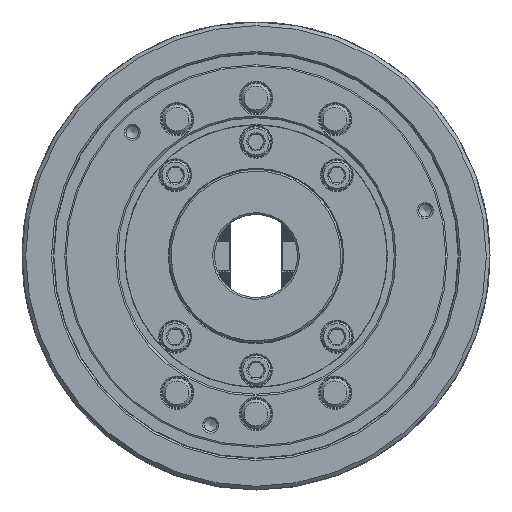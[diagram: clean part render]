
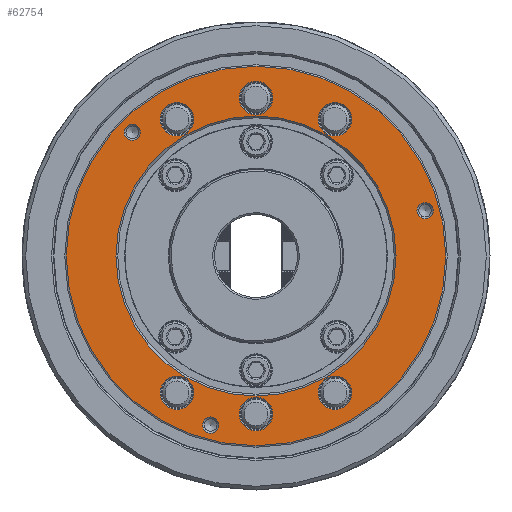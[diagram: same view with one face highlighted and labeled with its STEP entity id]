
A CAD part, left-side view. The second image highlights one B-rep face of the part: STEP entity #62754.
In plain terms, the highlighted planar face has unit normal (-1, 0, 0).
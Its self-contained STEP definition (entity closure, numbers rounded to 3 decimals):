
#54 = AXIS2_PLACEMENT_3D ( 'NONE', #52777, #37921, #58302 ) ;
#991 = ORIENTED_EDGE ( 'NONE', *, *, #51803, .T. ) ;
#1460 = EDGE_LOOP ( 'NONE', ( #68478 ) ) ;
#2096 = VERTEX_POINT ( 'NONE', #30316 ) ;
#2528 = CARTESIAN_POINT ( 'NONE',  ( -95., 42.862, -74.24 ) ) ;
#3116 = CIRCLE ( 'NONE', #59318, 4.4 ) ;
#3130 = CARTESIAN_POINT ( 'NONE',  ( -95., 0., -103. ) ) ;
#4307 = DIRECTION ( 'NONE',  ( 1., 0., 0. ) ) ;
#5297 = EDGE_LOOP ( 'NONE', ( #33224 ) ) ;
#5495 = CIRCLE ( 'NONE', #37998, 9.1 ) ;
#6708 = AXIS2_PLACEMENT_3D ( 'NONE', #82262, #66952, #18814 ) ;
#8455 = AXIS2_PLACEMENT_3D ( 'NONE', #8598, #50726, #64567 ) ;
#8598 = CARTESIAN_POINT ( 'NONE',  ( -95., 0., 85.725 ) ) ;
#9073 = FACE_BOUND ( 'NONE', #19764, .T. ) ;
#10397 = DIRECTION ( 'NONE',  ( 0., 0., -1. ) ) ;
#10523 = EDGE_CURVE ( 'NONE', #74975, #74975, #88382, .T. ) ;
#10654 = CARTESIAN_POINT ( 'NONE',  ( -95., 0., 0. ) ) ;
#11705 = EDGE_LOOP ( 'NONE', ( #44282 ) ) ;
#12035 = CIRCLE ( 'NONE', #59258, 9.1 ) ;
#12902 = CARTESIAN_POINT ( 'NONE',  ( -95., -42.863, -83.34 ) ) ;
#13073 = ORIENTED_EDGE ( 'NONE', *, *, #10523, .T. ) ;
#13078 = AXIS2_PLACEMENT_3D ( 'NONE', #52346, #16671, #39334 ) ;
#14709 = VERTEX_POINT ( 'NONE', #41118 ) ;
#16003 = DIRECTION ( 'NONE',  ( 1., 0., 0. ) ) ;
#16376 = EDGE_CURVE ( 'NONE', #41568, #41568, #5495, .T. ) ;
#16671 = DIRECTION ( 'NONE',  ( -1., 0., 0. ) ) ;
#17388 = FACE_BOUND ( 'NONE', #5297, .T. ) ;
#17902 = VERTEX_POINT ( 'NONE', #3130 ) ;
#18087 = EDGE_CURVE ( 'NONE', #14709, #14709, #60411, .T. ) ;
#18814 = DIRECTION ( 'NONE',  ( 0., 0., -1. ) ) ;
#18997 = DIRECTION ( 'NONE',  ( 1., 0., 0. ) ) ;
#19764 = EDGE_LOOP ( 'NONE', ( #32137 ) ) ;
#22967 = FACE_BOUND ( 'NONE', #30396, .T. ) ;
#24075 = EDGE_CURVE ( 'NONE', #78156, #78156, #47798, .T. ) ;
#25206 = DIRECTION ( 'NONE',  ( 0., 0., -1. ) ) ;
#25226 = VERTEX_POINT ( 'NONE', #60373 ) ;
#25591 = CARTESIAN_POINT ( 'NONE',  ( -95., 0., 0. ) ) ;
#25952 = ORIENTED_EDGE ( 'NONE', *, *, #18087, .T. ) ;
#27138 = VERTEX_POINT ( 'NONE', #76212 ) ;
#28804 = EDGE_LOOP ( 'NONE', ( #90539 ) ) ;
#30316 = CARTESIAN_POINT ( 'NONE',  ( -95., 24.588, -87.363 ) ) ;
#30396 = EDGE_LOOP ( 'NONE', ( #991 ) ) ;
#31348 = VERTEX_POINT ( 'NONE', #74405 ) ;
#32137 = ORIENTED_EDGE ( 'NONE', *, *, #81016, .F. ) ;
#32540 = DIRECTION ( 'NONE',  ( 0., 0., -1. ) ) ;
#33224 = ORIENTED_EDGE ( 'NONE', *, *, #55760, .T. ) ;
#33296 = CARTESIAN_POINT ( 'NONE',  ( -95., -42.863, -74.24 ) ) ;
#33763 = CIRCLE ( 'NONE', #13078, 4.4 ) ;
#34215 = EDGE_LOOP ( 'NONE', ( #80152 ) ) ;
#34792 = CIRCLE ( 'NONE', #6708, 9.1 ) ;
#37161 = CIRCLE ( 'NONE', #54, 4.4 ) ;
#37288 = FACE_BOUND ( 'NONE', #69024, .T. ) ;
#37921 = DIRECTION ( 'NONE',  ( -1., 0., 0. ) ) ;
#37998 = AXIS2_PLACEMENT_3D ( 'NONE', #33296, #47189, #89833 ) ;
#39043 = DIRECTION ( 'NONE',  ( 1., 0., 0. ) ) ;
#39334 = DIRECTION ( 'NONE',  ( 0., 0., 1. ) ) ;
#39967 = CARTESIAN_POINT ( 'NONE',  ( -95., -42.862, 74.24 ) ) ;
#40736 = DIRECTION ( 'NONE',  ( -1., 0., 0. ) ) ;
#41118 = CARTESIAN_POINT ( 'NONE',  ( -95., -42.862, 65.14 ) ) ;
#41197 = DIRECTION ( 'NONE',  ( 0., 0., -1. ) ) ;
#41568 = VERTEX_POINT ( 'NONE', #12902 ) ;
#43288 = VERTEX_POINT ( 'NONE', #58538 ) ;
#43983 = EDGE_CURVE ( 'NONE', #17902, #17902, #86852, .T. ) ;
#44257 = FACE_OUTER_BOUND ( 'NONE', #1460, .T. ) ;
#44282 = ORIENTED_EDGE ( 'NONE', *, *, #89216, .F. ) ;
#44714 = PLANE ( 'NONE',  #77766 ) ;
#45182 = EDGE_LOOP ( 'NONE', ( #86364 ) ) ;
#45626 = DIRECTION ( 'NONE',  ( 0., 0., -1. ) ) ;
#45816 = DIRECTION ( 'NONE',  ( 0., 0., -1. ) ) ;
#46023 = DIRECTION ( 'NONE',  ( 1., 0., 0. ) ) ;
#47189 = DIRECTION ( 'NONE',  ( 1., 0., 0. ) ) ;
#47798 = CIRCLE ( 'NONE', #59592, 76. ) ;
#49696 = ORIENTED_EDGE ( 'NONE', *, *, #64381, .F. ) ;
#50726 = DIRECTION ( 'NONE',  ( 1., 0., 0. ) ) ;
#51803 = EDGE_CURVE ( 'NONE', #31348, #31348, #76147, .T. ) ;
#52346 = CARTESIAN_POINT ( 'NONE',  ( -95., 67.175, 67.175 ) ) ;
#52777 = CARTESIAN_POINT ( 'NONE',  ( -95., -91.763, 24.588 ) ) ;
#52969 = EDGE_LOOP ( 'NONE', ( #13073 ) ) ;
#55760 = EDGE_CURVE ( 'NONE', #89687, #89687, #34792, .T. ) ;
#56415 = EDGE_LOOP ( 'NONE', ( #49696 ) ) ;
#58302 = DIRECTION ( 'NONE',  ( 0., 0., 1. ) ) ;
#58538 = CARTESIAN_POINT ( 'NONE',  ( -95., 42.863, 65.14 ) ) ;
#59054 = FACE_BOUND ( 'NONE', #34215, .T. ) ;
#59258 = AXIS2_PLACEMENT_3D ( 'NONE', #69874, #18997, #41197 ) ;
#59318 = AXIS2_PLACEMENT_3D ( 'NONE', #61551, #40736, #83816 ) ;
#59592 = AXIS2_PLACEMENT_3D ( 'NONE', #10654, #87543, #45816 ) ;
#60373 = CARTESIAN_POINT ( 'NONE',  ( -95., -91.763, 28.988 ) ) ;
#60411 = CIRCLE ( 'NONE', #72227, 9.1 ) ;
#61551 = CARTESIAN_POINT ( 'NONE',  ( -95., 24.588, -91.763 ) ) ;
#62754 = ADVANCED_FACE ( 'NONE', ( #87824, #65033, #37288, #65497, #87362, #9073, #22967, #17388, #59054, #44257, #66434 ), #44714, .F. ) ;
#64381 = EDGE_CURVE ( 'NONE', #27138, #27138, #33763, .T. ) ;
#64567 = DIRECTION ( 'NONE',  ( 0., 0., -1. ) ) ;
#65033 = FACE_BOUND ( 'NONE', #11705, .T. ) ;
#65497 = FACE_BOUND ( 'NONE', #52969, .T. ) ;
#66434 = FACE_BOUND ( 'NONE', #45182, .T. ) ;
#66952 = DIRECTION ( 'NONE',  ( 1., 0., 0. ) ) ;
#66962 = CARTESIAN_POINT ( 'NONE',  ( -95., 0., -94.825 ) ) ;
#67073 = CARTESIAN_POINT ( 'NONE',  ( -95., 0., 76.625 ) ) ;
#68478 = ORIENTED_EDGE ( 'NONE', *, *, #43983, .F. ) ;
#68770 = AXIS2_PLACEMENT_3D ( 'NONE', #2528, #39043, #10397 ) ;
#69024 = EDGE_LOOP ( 'NONE', ( #25952 ) ) ;
#69874 = CARTESIAN_POINT ( 'NONE',  ( -95., 42.863, 74.24 ) ) ;
#72227 = AXIS2_PLACEMENT_3D ( 'NONE', #39967, #46023, #25206 ) ;
#73396 = CARTESIAN_POINT ( 'NONE',  ( -95., -103., 0. ) ) ;
#74405 = CARTESIAN_POINT ( 'NONE',  ( -95., 42.862, -83.34 ) ) ;
#74975 = VERTEX_POINT ( 'NONE', #67073 ) ;
#76147 = CIRCLE ( 'NONE', #68770, 9.1 ) ;
#76212 = CARTESIAN_POINT ( 'NONE',  ( -95., 67.175, 71.575 ) ) ;
#77766 = AXIS2_PLACEMENT_3D ( 'NONE', #73396, #16003, #45626 ) ;
#78156 = VERTEX_POINT ( 'NONE', #91601 ) ;
#80152 = ORIENTED_EDGE ( 'NONE', *, *, #16376, .T. ) ;
#80974 = AXIS2_PLACEMENT_3D ( 'NONE', #25591, #4307, #32540 ) ;
#81016 = EDGE_CURVE ( 'NONE', #2096, #2096, #3116, .T. ) ;
#81044 = EDGE_CURVE ( 'NONE', #43288, #43288, #12035, .T. ) ;
#82262 = CARTESIAN_POINT ( 'NONE',  ( -95., 0., -85.725 ) ) ;
#83816 = DIRECTION ( 'NONE',  ( 0., 0., 1. ) ) ;
#86364 = ORIENTED_EDGE ( 'NONE', *, *, #24075, .T. ) ;
#86852 = CIRCLE ( 'NONE', #80974, 103. ) ;
#87362 = FACE_BOUND ( 'NONE', #28804, .T. ) ;
#87543 = DIRECTION ( 'NONE',  ( 1., 0., 0. ) ) ;
#87824 = FACE_BOUND ( 'NONE', #56415, .T. ) ;
#88382 = CIRCLE ( 'NONE', #8455, 9.1 ) ;
#89216 = EDGE_CURVE ( 'NONE', #25226, #25226, #37161, .T. ) ;
#89687 = VERTEX_POINT ( 'NONE', #66962 ) ;
#89833 = DIRECTION ( 'NONE',  ( 0., 0., -1. ) ) ;
#90539 = ORIENTED_EDGE ( 'NONE', *, *, #81044, .T. ) ;
#91601 = CARTESIAN_POINT ( 'NONE',  ( -95., 0., -76. ) ) ;
